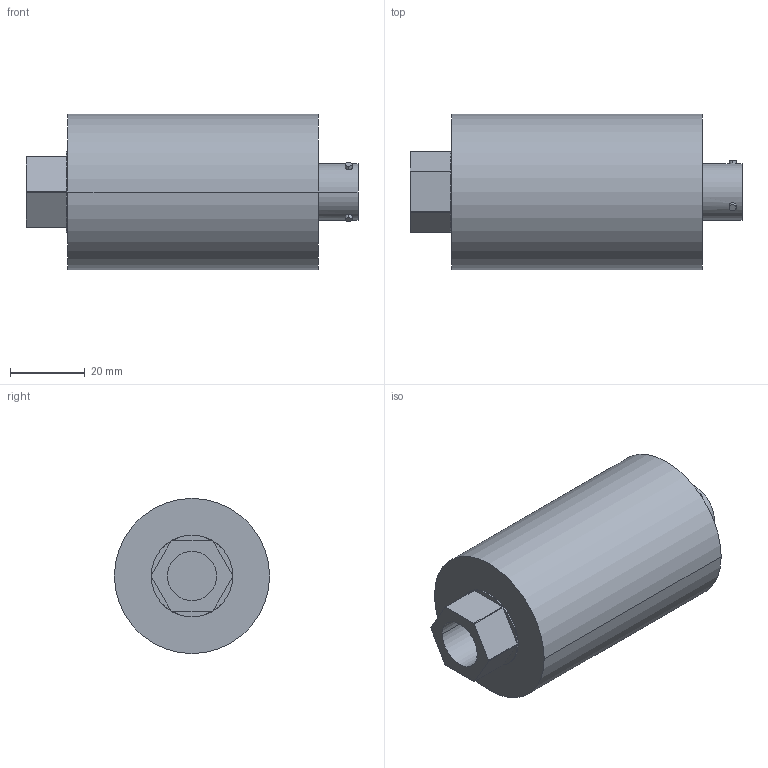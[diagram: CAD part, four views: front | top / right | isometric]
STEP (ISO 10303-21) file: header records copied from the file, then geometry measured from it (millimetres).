
FILE_DESCRIPTION(('STEP AP214'),'1');
FILE_NAME('burster_8263-2000_c7mxtvegi0n5hps8hummx8yad.stp','2017-04-19T19:47:51',('TraceParts'),('TraceParts S.A.'),'Spatial InterOp 3D',' ',' ');
FILE_SCHEMA(('automotive_design'));
Length unit declared in the file: millimetre
Products named in the file (1): burster_8263-2000_c7mxtvegi0n5hps8hummx8yad
Bounding box: 88.6 x 41.4 x 41.4 mm (x, y, z)
Volume: 90249 mm3; surface area: 14350.4 mm2
Topology: 1 solids, 1 shells, 55 faces, 123 edges, 82 vertices
Faces by surface type: cylinder 28, plane 27
Entity records: 2143 total; most frequent: CARTESIAN_POINT 397, DIRECTION 289, ORIENTED_EDGE 246, EDGE_CURVE 123, AXIS2_PLACEMENT_3D 118, VERTEX_POINT 82, EDGE_LOOP 67, CIRCLE 62
